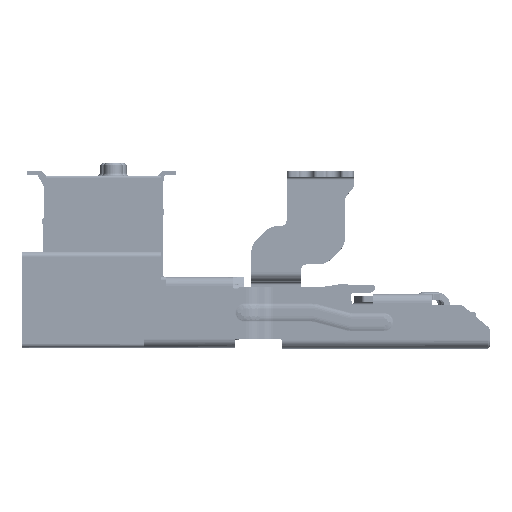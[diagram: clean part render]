
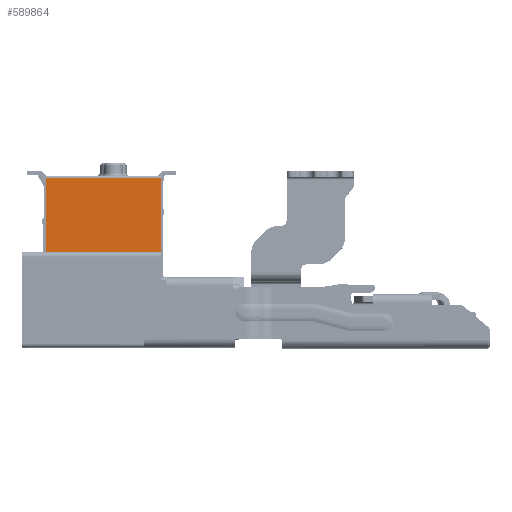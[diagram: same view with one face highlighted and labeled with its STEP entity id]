
A CAD part, front view. The second image highlights one B-rep face of the part: STEP entity #589864.
In plain terms, the highlighted planar face has unit normal (0, -1, 0).
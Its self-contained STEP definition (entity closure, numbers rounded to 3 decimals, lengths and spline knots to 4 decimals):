
#3398=DIRECTION('',(0.,0.,-1.));
#3399=VECTOR('',#3398,3.85);
#3400=CARTESIAN_POINT('',(3.7,-36.,6.975));
#3401=LINE('',#3400,#3399);
#43332=DIRECTION('',(0.,0.,1.));
#43333=VECTOR('',#43332,3.85);
#43334=CARTESIAN_POINT('',(-2.3,-36.,3.125));
#43335=LINE('',#43334,#43333);
#175542=DIRECTION('',(-1.,0.,0.));
#175543=VECTOR('',#175542,6.);
#175544=CARTESIAN_POINT('',(3.7,-36.,3.125));
#175545=LINE('',#175544,#175543);
#175566=DIRECTION('',(1.,0.,0.));
#175567=VECTOR('',#175566,6.);
#175568=CARTESIAN_POINT('',(-2.3,-36.,6.975));
#175569=LINE('',#175568,#175567);
#234398=CARTESIAN_POINT('',(3.7,-36.,6.975));
#234399=VERTEX_POINT('',#234398);
#234616=CARTESIAN_POINT('',(3.7,-36.,3.125));
#234617=VERTEX_POINT('',#234616);
#234844=CARTESIAN_POINT('',(-2.3,-36.,6.975));
#234845=VERTEX_POINT('',#234844);
#235108=CARTESIAN_POINT('',(-2.3,-36.,3.125));
#235109=VERTEX_POINT('',#235108);
#589852=CARTESIAN_POINT('',(3.7,-36.,6.925));
#589853=DIRECTION('',(0.,1.,0.));
#589854=DIRECTION('',(-1.,0.,0.));
#589855=AXIS2_PLACEMENT_3D('',#589852,#589853,#589854);
#589856=PLANE('',#589855);
#589857=ORIENTED_EDGE('',*,*,#589834,.T.);
#589858=ORIENTED_EDGE('',*,*,#375436,.T.);
#589860=ORIENTED_EDGE('',*,*,#589859,.T.);
#589861=ORIENTED_EDGE('',*,*,#307916,.T.);
#589862=EDGE_LOOP('',(#589857,#589858,#589860,#589861));
#589863=FACE_OUTER_BOUND('',#589862,.F.);
#307916=EDGE_CURVE('',#234399,#234617,#3401,.T.);
#375436=EDGE_CURVE('',#235109,#234845,#43335,.T.);
#589834=EDGE_CURVE('',#234617,#235109,#175545,.T.);
#589859=EDGE_CURVE('',#234845,#234399,#175569,.T.);
#589864=ADVANCED_FACE('',(#589863),#589856,.F.);
